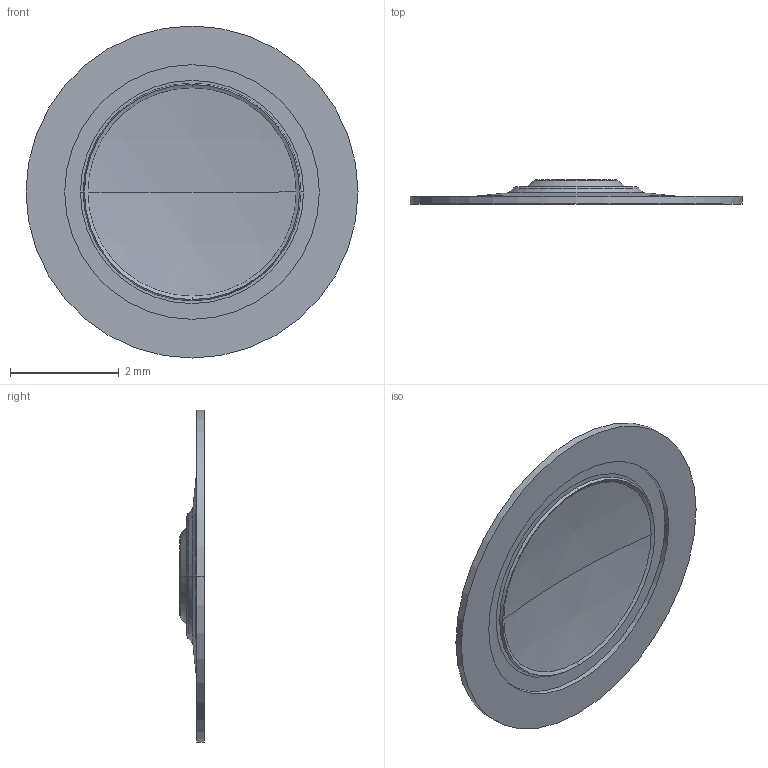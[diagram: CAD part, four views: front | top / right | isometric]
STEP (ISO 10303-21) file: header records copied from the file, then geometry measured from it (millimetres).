
FILE_DESCRIPTION (( 'STEP AP203' ), '1' );
FILE_NAME ('SK5AS00140.STEP', '2015-09-08T04:54:56', ( '' ), ( '' ), 'SwSTEP 2.0', 'SolidWorks 2014', '' );
FILE_SCHEMA (( 'CONFIG_CONTROL_DESIGN' ));
Length unit declared in the file: millimetre
Products named in the file (4): sheet; new-pj; metal dome; SK5AS00140
Assembly tree (3 placements, depth 2):
  SK5AS00140
    sheet
    new-pj
    metal dome
Bounding box: 6.1 x 0.45 x 6.1 mm (x, y, z)
Volume: 3.5 mm3; surface area: 91.7 mm2
Topology: 3 solids, 3 shells, 83 faces, 190 edges, 118 vertices
Faces by surface type: cylinder 32, torus 24, cone 14, plane 9, sphere 4
Entity records: 3374 total; most frequent: CARTESIAN_POINT 1033, DIRECTION 448, ORIENTED_EDGE 380, AXIS2_PLACEMENT_3D 201, EDGE_CURVE 190, VERTEX_POINT 118, CIRCLE 112, EDGE_LOOP 98
